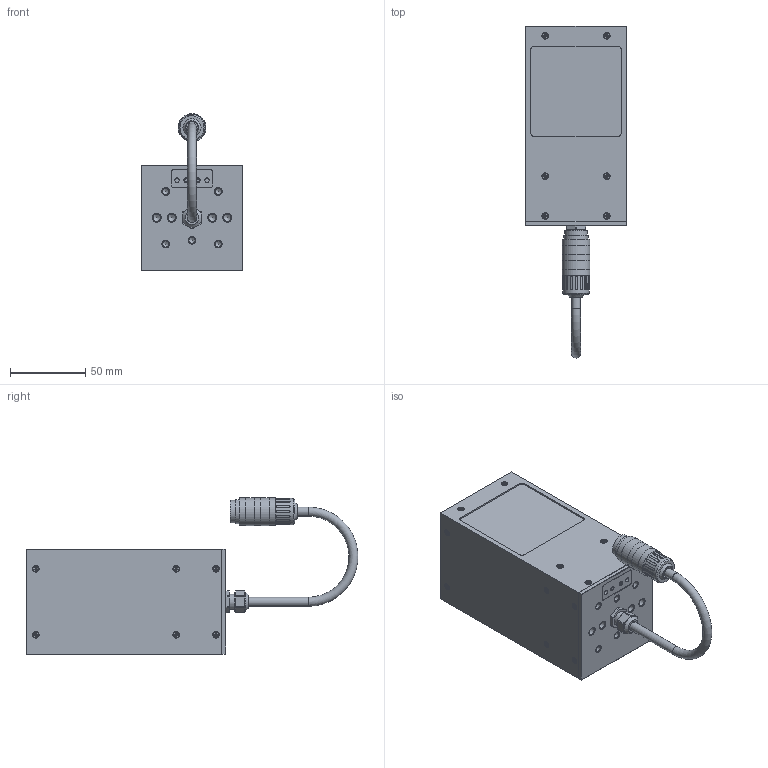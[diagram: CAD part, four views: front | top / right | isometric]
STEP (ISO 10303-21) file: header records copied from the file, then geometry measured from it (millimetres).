
FILE_DESCRIPTION(/* description */ ('Unknown','CAx-IF Rec.Pracs.---Representation and Presentation of Product Manufacturing Information (PMI)---4.0---2014-10-13','CAx-IF Rec.Pracs.---3D Tessellated Geometry---0.4---2014-09-14','2;1'),/* implementation_level */ '2;1');
FILE_NAME(/* name */ '10X.0082_LES60_LES60FL',/* time_stamp */ '2021-06-11T11:31:46+02:00',/* author */ ('AW'),/* organization */ ('iiM AG'),/* preprocessor_version */ 'ST-DEVELOPER v16.7',/* originating_system */ 'DEX',/* authorisation */ $);
FILE_SCHEMA (('AP242_MANAGED_MODEL_BASED_3D_ENGINEERING_MIM_LF { 1 0 10303 442 1 1 4 }'));
Length unit declared in the file: millimetre
Products named in the file (1): LES60_LES60FL vereinfacht
Bounding box: 67 x 221 x 104.3 mm (x, y, z)
Volume: 182729.5 mm3; surface area: 101461.1 mm2
Topology: 13 solids, 13 shells, 1339 faces, 3537 edges, 2328 vertices
Faces by surface type: plane 699, cylinder 484, cone 95, torus 49, sphere 12
Full cylindrical faces by diameter (mm): 1 x12, 1.454 x24, 1.567 x4, 2 x24, 2.4 x24, 3 x6, 4 x2, 4.134 x12, 4.917 x16, 6 x2, 6.25 x1, 7 x2, 8 x1, 8.376 x1, 10 x1, 12.9 x2, 15 x1, 16 x1, 17.5 x1, 18.5 x3, 18.6 x2
Entity records: 47132 total; most frequent: CARTESIAN_POINT 7292, DIRECTION 6598, ORIENTED_EDGE 6144, EDGE_CURVE 3072, AXIS2_PLACEMENT_3D 2406, VERTEX_POINT 2172, LINE 1786, VECTOR 1786
